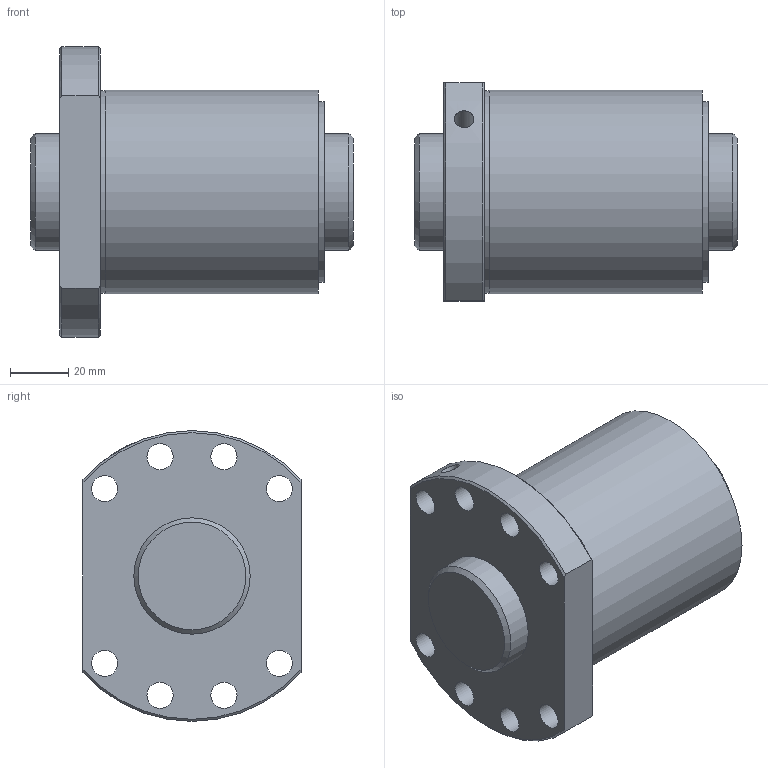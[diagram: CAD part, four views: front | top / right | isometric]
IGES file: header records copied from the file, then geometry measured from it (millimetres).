
Start section: Data from Parasolid IGES Translator 26.0.171, Copyright(c) 2006 Siemens PLM Software. All Rights Reserved.
Global section: file name: SDA4016VA-5G0+111LC0(0G000).igs; native system: By Siemens PLM Incorporated; preprocessor: XPlus GENERIC/IGES 26.0.171; author: Noname; organization: Noname; date: 20240528.114221; units: millimetre
Bounding box: 111 x 75 x 100 mm (x, y, z)
Surface area: 62334.9 mm2 (no closed solid volume)
Topology: 0 solids, 0 shells, 33 faces, 154 edges, 134 vertices
Faces by surface type: revolution 24, extrusion 9
